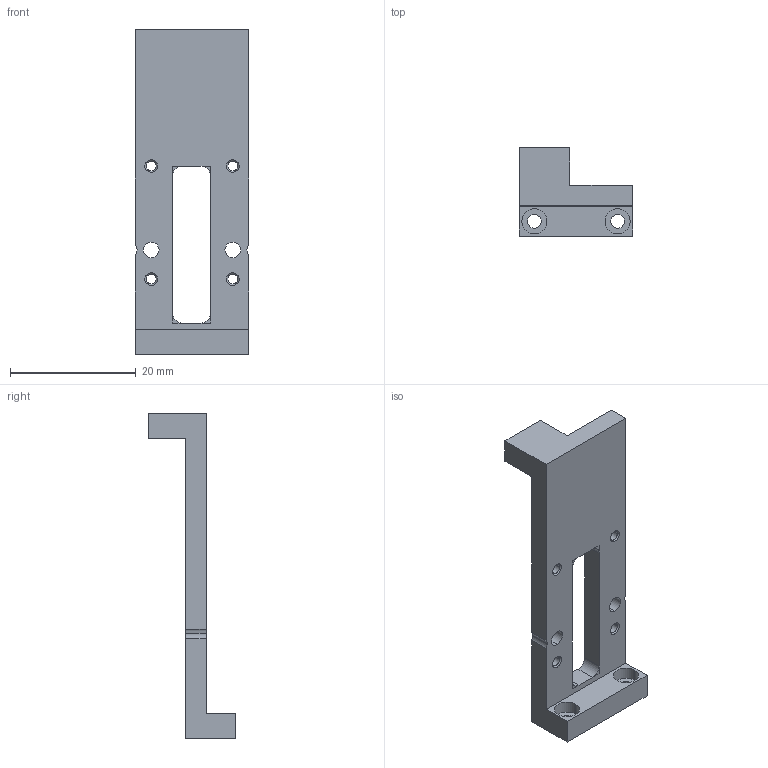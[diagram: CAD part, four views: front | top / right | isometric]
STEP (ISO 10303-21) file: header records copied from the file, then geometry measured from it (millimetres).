
FILE_DESCRIPTION(/* description */ ('(C) Elphel, Inc. 2012. Licensed under CERN OHL v.1.1 or later, see http://ohwr.org/cernohl'),/* implementation_level */ '2;1');
FILE_NAME(/* name */ '0353-23-05',/* time_stamp */ '2012-02-06T02:00:30-07:00',/* author */ (''),/* organization */ ('Elphel, Inc'),/* preprocessor_version */ 'ST-DEVELOPER v12',/* originating_system */ 'VariCAD 2010-3.03; kernel version (20100102)',/* authorisation */ '');
FILE_SCHEMA (('AUTOMOTIVE_DESIGN'));
Length unit declared in the file: millimetre
Products named in the file (1): Part
Bounding box: 18 x 14 x 51.75 mm (x, y, z)
Volume: 2943.8 mm3; surface area: 2964.1 mm2
Topology: 6 solids, 6 shells, 97 faces, 229 edges, 143 vertices
Faces by surface type: cylinder 52, plane 35, cone 10
Entity records: 3613 total; most frequent: DIRECTION 541, CARTESIAN_POINT 476, ORIENTED_EDGE 458, EDGE_CURVE 229, AXIS2_PLACEMENT_3D 208, VERTEX_POINT 143, LINE 125, VECTOR 125
